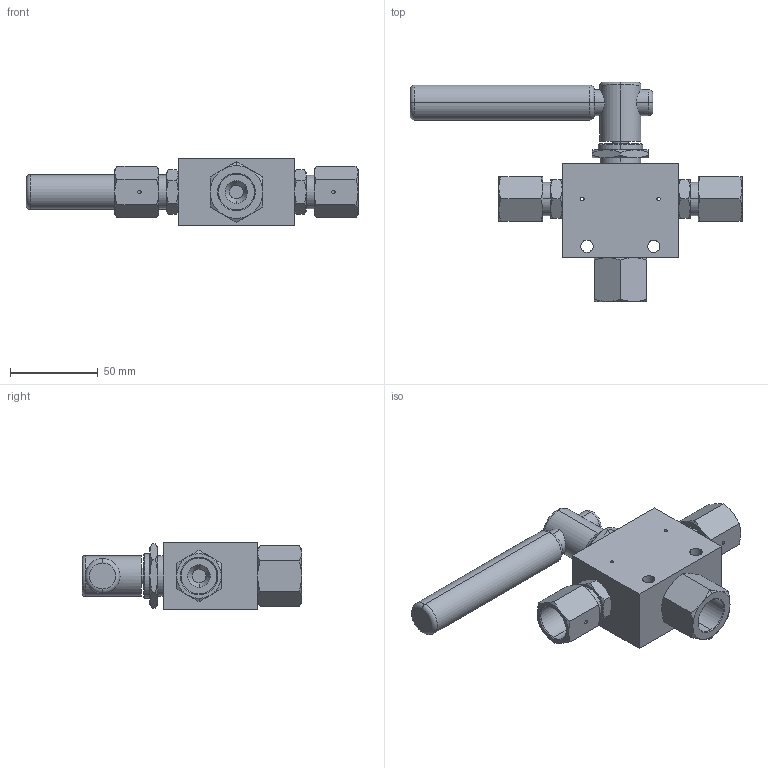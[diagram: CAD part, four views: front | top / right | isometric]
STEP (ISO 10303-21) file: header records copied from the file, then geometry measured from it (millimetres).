
FILE_DESCRIPTION (( 'STEP AP203' ), '1' );
FILE_NAME ('BV2003S09-3-180.STEP', '2022-03-31T10:11:58', ( '' ), ( '' ), 'SwSTEP 2.0', 'SolidWorks 2020', '' );
FILE_SCHEMA (( 'CONFIG_CONTROL_DESIGN' ));
Length unit declared in the file: millimetre
Products named in the file (1): BV2003S09-3-180
Bounding box: 189.33 x 125 x 38 mm (x, y, z)
Volume: 222779.2 mm3; surface area: 45096.1 mm2
Topology: 1 solids, 1 shells, 220 faces, 482 edges, 282 vertices
Faces by surface type: cone 102, plane 62, cylinder 48, torus 8
Entity records: 6801 total; most frequent: CARTESIAN_POINT 2065, DIRECTION 964, ORIENTED_EDGE 956, EDGE_CURVE 478, AXIS2_PLACEMENT_3D 419, VERTEX_POINT 282, EDGE_LOOP 256, ADVANCED_FACE 220
